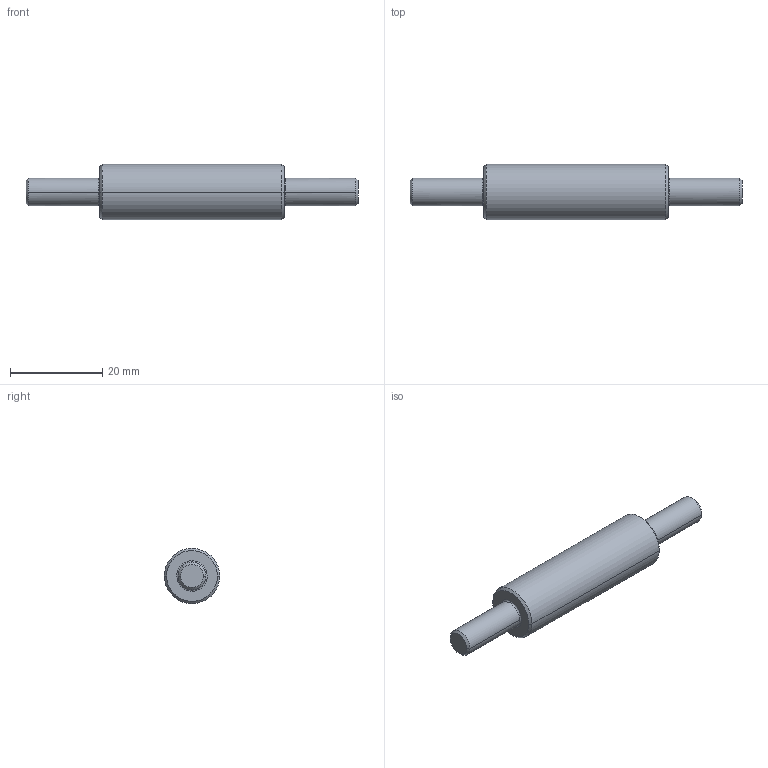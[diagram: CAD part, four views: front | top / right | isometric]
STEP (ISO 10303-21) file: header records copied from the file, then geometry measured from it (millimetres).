
FILE_DESCRIPTION(/* description */ (''),/* implementation_level */ '2;1');
FILE_NAME(/* name */ '6.y-drive#6.2#SFAJ12-40-F16-P6-T16',/* time_stamp */ '2014-12-01T20:14:05+01:00',/* author */ (''),/* organization */ (''),/* preprocessor_version */ 'ST-DEVELOPER v14',/* originating_system */ '',/* authorisation */ '');
FILE_SCHEMA (('AUTOMOTIVE_DESIGN'));
Length unit declared in the file: millimetre
Products named in the file (1): Document
Bounding box: 72 x 12 x 12 mm (x, y, z)
Volume: 5422.4 mm3; surface area: 2299.5 mm2
Topology: 1 solids, 1 shells, 22 faces, 46 edges, 28 vertices
Faces by surface type: bspline 18, plane 4
Entity records: 1600 total; most frequent: CARTESIAN_POINT 994, B_SPLINE_CURVE_WITH_KNOTS 94, ORIENTED_EDGE 92, PCURVE 92, DEFINITIONAL_REPRESENTATION 92, SURFACE_CURVE 46, EDGE_CURVE 46, VERTEX_POINT 28
